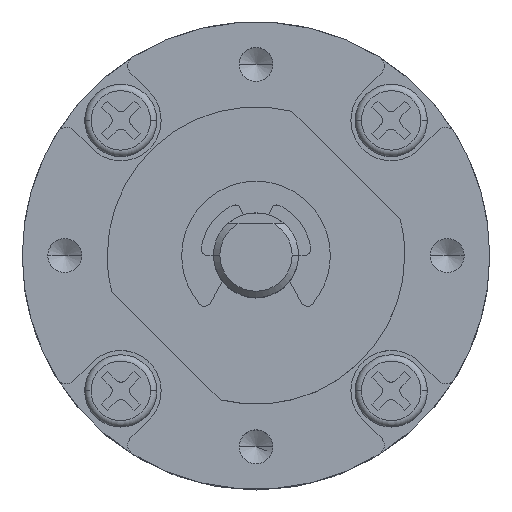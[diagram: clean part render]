
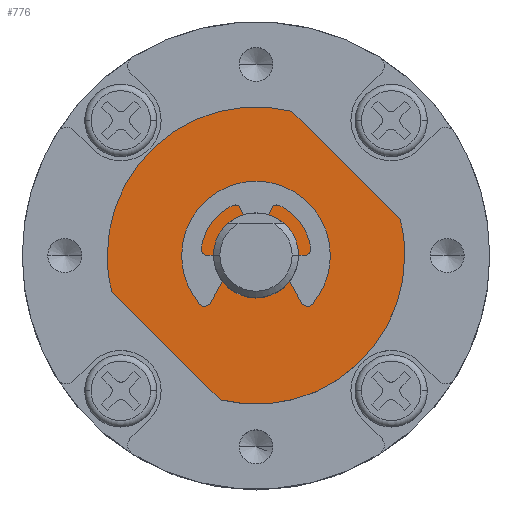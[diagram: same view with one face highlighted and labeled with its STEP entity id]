
A CAD part, top view. The second image highlights one B-rep face of the part: STEP entity #776.
In plain terms, the highlighted planar face has unit normal (0, 0, 1).
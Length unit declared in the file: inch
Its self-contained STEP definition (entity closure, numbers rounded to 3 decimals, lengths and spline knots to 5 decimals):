
#776=ADVANCED_FACE('NONE',(#1737,#1738),#1739,.F.);
#1737=FACE_OUTER_BOUND('',#2886,.T.);
#1738=FACE_BOUND('',#2887,.T.);
#1739=PLANE('',#2888);
#2886=EDGE_LOOP('',(#5110,#5111,#5112,#5113,#5114,#5115));
#2887=EDGE_LOOP('',(#5116,#5117));
#2888=AXIS2_PLACEMENT_3D('',#5118,#5119,#5120);
#5110=ORIENTED_EDGE('',*,*,#6759,.F.);
#5111=ORIENTED_EDGE('',*,*,#7453,.T.);
#5112=ORIENTED_EDGE('',*,*,#7574,.F.);
#5113=ORIENTED_EDGE('',*,*,#7611,.F.);
#5114=ORIENTED_EDGE('',*,*,#7612,.T.);
#5115=ORIENTED_EDGE('',*,*,#6853,.F.);
#5116=ORIENTED_EDGE('',*,*,#7084,.T.);
#5117=ORIENTED_EDGE('',*,*,#7613,.T.);
#5118=CARTESIAN_POINT('',(-0.16451,-0.10616,-0.05709));
#5119=DIRECTION('',(0.0,0.0,-1.0));
#5120=DIRECTION('',(0.0,-1.0,0.0));
#6759=EDGE_CURVE('NONE',#8074,#8070,#8076,.T.);
#6853=EDGE_CURVE('NONE',#8070,#8244,#8245,.T.);
#7084=EDGE_CURVE('NONE',#8653,#8651,#8654,.T.);
#7453=EDGE_CURVE('NONE',#8074,#9220,#9222,.T.);
#7574=EDGE_CURVE('NONE',#9385,#9220,#9387,.T.);
#7611=EDGE_CURVE('NONE',#9434,#9385,#9435,.T.);
#7612=EDGE_CURVE('NONE',#9434,#8244,#9436,.T.);
#7613=EDGE_CURVE('NONE',#8651,#8653,#9437,.T.);
#8070=VERTEX_POINT('',#9984);
#8074=VERTEX_POINT('NONE',#9989);
#8076=CIRCLE('',#9992,0.27559);
#8244=VERTEX_POINT('NONE',#10199);
#8245=CIRCLE('',#10200,0.27559);
#8651=VERTEX_POINT('NONE',#10695);
#8653=VERTEX_POINT('NONE',#10698);
#8654=CIRCLE('',#10699,0.07874);
#9220=VERTEX_POINT('NONE',#11433);
#9222=LINE('',#11436,#11437);
#9385=VERTEX_POINT('NONE',#11658);
#9387=CIRCLE('',#11661,0.27559);
#9434=VERTEX_POINT('NONE',#11718);
#9435=CIRCLE('',#11719,0.27559);
#9436=LINE('',#11720,#11721);
#9437=CIRCLE('',#11722,0.07874);
#9984=CARTESIAN_POINT('',(0.11108,-0.02742,-0.05709));
#9989=CARTESIAN_POINT('',(0.10289,0.03924,-0.05709));
#9992=AXIS2_PLACEMENT_3D('',#12412,#12413,#12414);
#10199=CARTESIAN_POINT('',(-0.23117,-0.29483,-0.05709));
#10200=AXIS2_PLACEMENT_3D('',#12574,#12575,#12576);
#10695=CARTESIAN_POINT('',(-0.08577,-0.02742,-0.05709));
#10698=CARTESIAN_POINT('',(-0.24325,-0.02742,-0.05709));
#10699=AXIS2_PLACEMENT_3D('',#12997,#12998,#12999);
#11433=CARTESIAN_POINT('',(-0.09785,0.23999,-0.05709));
#11436=CARTESIAN_POINT('',(0.04189,0.10024,-0.05709));
#11437=VECTOR('',#13523,39.37008);
#11658=CARTESIAN_POINT('',(-0.4401,-0.02742,-0.05709));
#11661=AXIS2_PLACEMENT_3D('',#13696,#13697,#13698);
#11718=CARTESIAN_POINT('',(-0.43192,-0.09408,-0.05709));
#11719=AXIS2_PLACEMENT_3D('',#13748,#13749,#13750);
#11720=CARTESIAN_POINT('',(-0.29218,-0.23382,-0.05709));
#11721=VECTOR('',#13751,39.37008);
#11722=AXIS2_PLACEMENT_3D('',#13752,#13753,#13754);
#12412=CARTESIAN_POINT('',(-0.16451,-0.02742,-0.05709));
#12413=DIRECTION('',(0.0,0.0,-1.0));
#12414=DIRECTION('',(-1.0,0.0,0.0));
#12574=CARTESIAN_POINT('',(-0.16451,-0.02742,-0.05709));
#12575=DIRECTION('',(0.0,0.0,-1.0));
#12576=DIRECTION('',(-1.0,0.0,0.0));
#12997=CARTESIAN_POINT('',(-0.16451,-0.02742,-0.05709));
#12998=DIRECTION('',(0.0,0.0,-1.0));
#12999=DIRECTION('',(-1.0,0.0,0.0));
#13523=DIRECTION('',(-0.707,0.707,0.0));
#13696=CARTESIAN_POINT('',(-0.16451,-0.02742,-0.05709));
#13697=DIRECTION('',(0.0,0.0,-1.0));
#13698=DIRECTION('',(-1.0,0.0,0.0));
#13748=CARTESIAN_POINT('',(-0.16451,-0.02742,-0.05709));
#13749=DIRECTION('',(0.0,0.0,-1.0));
#13750=DIRECTION('',(-1.0,0.0,0.0));
#13751=DIRECTION('',(0.707,-0.707,0.0));
#13752=CARTESIAN_POINT('',(-0.16451,-0.02742,-0.05709));
#13753=DIRECTION('',(0.0,0.0,-1.0));
#13754=DIRECTION('',(-1.0,0.0,0.0));
